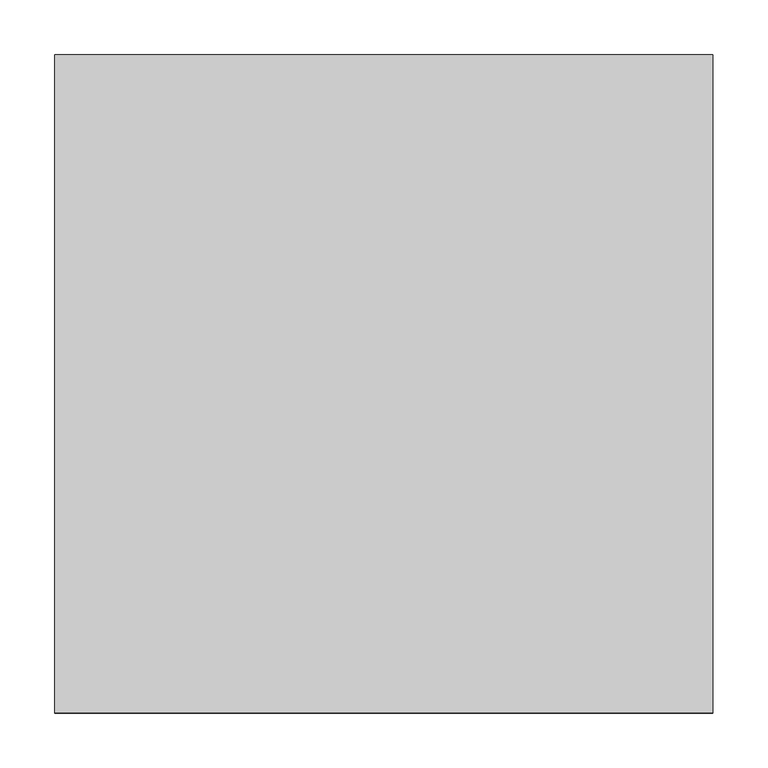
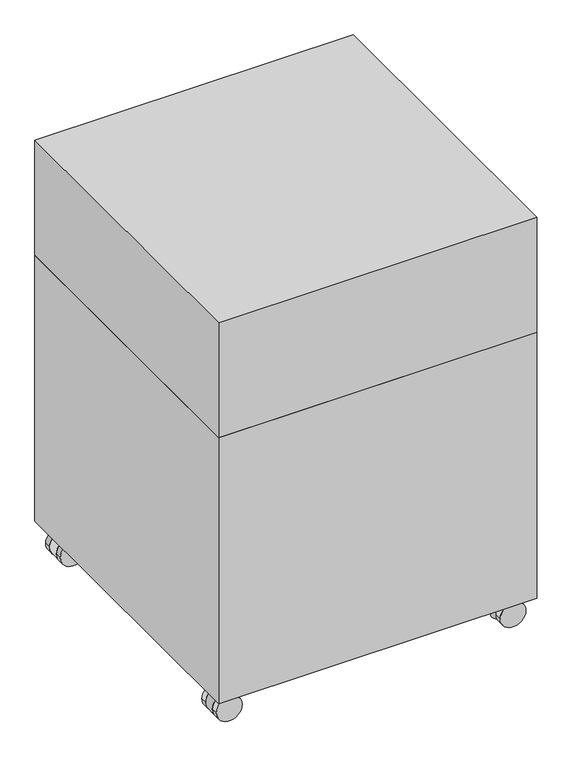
"""IFC4 building model written with IfcOpenShell, lengths in millimetres: furniture geometry, BK Library - Flipover - Large : BK Library - Flipover - Large."""

from ifc_helpers import new_model, si_unit, point, frame, frame_2d, origin, place, context, project, spatial, circle_curve, trimmed, segment, composite_curve, outline, extrude, faceted_brep, source, transform, mapped, element, save
from ifc_brep_helpers import plane_surface, cylinder_surface, advanced_brep


def furniture_d199673e(model_context):
    return source(origin(), model_context, "Body", "SolidModel", [
        faceted_brep([(300.0, 300.0, 818.1958313), (-300.0, 300.0, 818.1958313), (-300.0, -300.0, 818.1958313), (300.0, -300.0, 818.1958313), (300.0, 300.0, 589.1958313), (300.0, -300.0, 589.1958313), (-300.0, -300.0, 589.1958313), (-300.0, 300.0, 589.1958313), (-9.5, 281.0, 589.1958313), (-279.0, 281.0, 589.1958313), (-279.0, 9.5, 589.1958313), (-9.5, 9.5, 589.1958313), (-279.0, -9.5, 589.1958313), (-279.0, -281.0, 589.1958313), (-9.5, -281.0, 589.1958313), (-9.5, -9.5, 589.1958313), (279.0, -281.0, 589.1958313), (279.0, -9.5, 589.1958313), (9.5, -9.5, 589.1958313), (9.5, -281.0, 589.1958313), (279.0, 281.0, 589.1958313), (9.5, 281.0, 589.1958313), (9.5, 9.5, 589.1958313), (279.0, 9.5, 589.1958313), (300.0, 300.0, 794.1958313), (-300.0, 300.0, 794.1958313), (-300.0, -300.0, 794.1958313), (300.0, -300.0, 794.1958313), (-9.5, 9.5, 794.1958313), (-9.5, 281.0, 794.1958313), (-279.0, 9.5, 794.1958313), (-279.0, 281.0, 794.1958313), (-9.5, -9.5, 794.1958313), (-279.0, -9.5, 794.1958313), (-9.5, -281.0, 794.1958313), (-279.0, -281.0, 794.1958313), (9.5, -281.0, 794.1958313), (279.0, -281.0, 794.1958313), (9.5, -9.5, 794.1958313), (279.0, -9.5, 794.1958313), (279.0, 9.5, 794.1958313), (279.0, 281.0, 794.1958313), (9.5, 9.5, 794.1958313), (9.5, 281.0, 794.1958313)], [[[0, 1, 2, 3]], [[4, 5, 6, 7], [8, 9, 10, 11], [12, 13, 14, 15], [16, 17, 18, 19], [20, 21, 22, 23]], [[1, 0, 24, 4, 7, 25]], [[2, 1, 25, 7, 6, 26]], [[3, 2, 26, 6, 5, 27]], [[0, 3, 27, 5, 4, 24]], [[8, 11, 28, 29]], [[11, 10, 30, 28]], [[10, 9, 31, 30]], [[9, 8, 29, 31]], [[12, 15, 32, 33]], [[15, 14, 34, 32]], [[14, 13, 35, 34]], [[13, 12, 33, 35]], [[16, 19, 36, 37]], [[19, 18, 38, 36]], [[18, 17, 39, 38]], [[17, 16, 37, 39]], [[20, 23, 40, 41]], [[23, 22, 42, 40]], [[22, 21, 43, 42]], [[21, 20, 41, 43]], [[29, 28, 30, 31]], [[33, 32, 34, 35]], [[37, 36, 38, 39]], [[41, 40, 42, 43]]]),
        extrude(outline(composite_curve([segment(trimmed(circle_curve(frame_2d((253.0070749, 254.962002)), 7.4539879), [point((245.5530869, 254.962002))], [point((260.4610628, 254.962002))], False, "CARTESIAN"), True, "CONTINUOUS"), segment(trimmed(circle_curve(frame_2d((253.0070749, 254.962002)), 7.4539879), [point((260.4610628, 254.962002))], [point((245.5530869, 254.962002))], False, "CARTESIAN"), True, "CONTINUOUS")], self_intersect=False)), frame((0.0, 0.0, 49.6907092), z_axis=(0.0, 0.0, 1.0), x_axis=(1.0, 0.0, 0.0)), (0.0, 0.0, 1.0), 8.9875516),
        advanced_brep(
        [(-251.467628, 244.2, 49.6907092), (-251.467628, 265.8, 49.6907092), (-267.5030829, 265.8, 49.6907092), (-267.5030829, 244.2, 49.6907092), (-251.467628, 265.8, 14.7426051), (-251.467628, 244.2, 14.7426051), (-289.8859363, 244.2, 14.7426051), (-289.8859363, 265.8, 14.7426051), (-267.5030829, 244.2, 48.7252101), (-267.5030829, 265.8, 48.7252101)],
        [
            (0, 1, circle_curve(frame((-251.467628, 255.0, 49.6907092), z_axis=(0.0, 0.0, 1.0), x_axis=(-1.0, 0.0, 0.0)), 10.8)),
            (1, 2),
            (2, 3),
            (3, 0),
            (4, 5, circle_curve(frame((-251.467628, 255.0, 14.7426051), z_axis=(0.0, 0.0, -1.0), x_axis=(-1.0, 0.0, 0.0)), 10.8)),
            (5, 6),
            (6, 7),
            (7, 4),
            (5, 0),
            (3, 8),
            (8, 6, circle_curve(frame((-267.5030829, 244.2, 24.3626051), z_axis=(0.0, -1.0, 0.0), x_axis=(-1.0, 0.0, 0.0)), 24.3626051)),
            (4, 1),
            (7, 9, circle_curve(frame((-267.5030829, 265.8, 24.3626051), z_axis=(0.0, 1.0, 0.0), x_axis=(-1.0, 0.0, 0.0)), 24.3626051)),
            (9, 2),
            (8, 9),
        ],
        [
            plane_surface(frame((-243.1404779, 244.2, 49.6907092), z_axis=(0.0, 0.0, 1.0), x_axis=(1.0, 0.0, 0.0))),
            plane_surface(frame((-243.1404779, 244.2, 14.7426051), z_axis=(0.0, 0.0, -1.0), x_axis=(-1.0, 0.0, 0.0))),
            plane_surface(frame((-301.73294, 244.2, 49.6907092), z_axis=(0.0, -1.0, 0.0), x_axis=(0.0, 0.0, -1.0))),
            cylinder_surface(frame((-251.467628, 255.0, 14.7426051), z_axis=(0.0, 0.0, 1.0), x_axis=(-1.0, 0.0, 0.0)), 10.8),
            plane_surface(frame((-251.467628, 265.8, 49.6907092), z_axis=(0.0, 1.0, 0.0), x_axis=(0.0, 0.0, -1.0))),
            cylinder_surface(frame((-267.5030829, 226.7777105, 24.3626051), z_axis=(0.0, -1.0, 0.0), x_axis=(-1.0, 0.0, 0.0)), 24.3626051),
            plane_surface(frame((-267.5030829, 276.0, 49.6907092), z_axis=(-1.0, 0.0, 0.0), x_axis=(0.0, -1.0, 0.0))),
        ],
        [
            (0, [[1, 2, 3, 4]]),
            (1, [[5, 6, 7, 8]]),
            (2, [[9, -4, 10, 11, -6]]),
            (3, [[-1, -9, -5, 12]]),
            (4, [[-12, -8, 13, 14, -2]]),
            (5, [[15, -13, -7, -11]]),
            (6, [[-15, -10, -3, -14]]),
        ],
    ),
        advanced_brep(
        [(-243.1404779, 278.8, 24.3626051), (-291.865688, 278.8, 24.3626051), (-243.1404779, 265.8, 24.3626051), (-267.5030829, 265.8, 48.7252101), (-291.865688, 265.8, 24.3626051), (-289.8859363, 265.8, 14.7426051), (-291.865688, 276.0, 24.3626051)],
        [
            (0, 1, circle_curve(frame((-267.5030829, 278.8, 24.3626051), z_axis=(0.0, 1.0, 0.0), x_axis=(-1.0, 0.0, 0.0)), 24.3626051)),
            (1, 0, circle_curve(frame((-267.5030829, 278.8, 24.3626051), z_axis=(0.0, 1.0, 0.0), x_axis=(-1.0, 0.0, 0.0)), 24.3626051)),
            (2, 3, circle_curve(frame((-267.5030829, 265.8, 24.3626051), z_axis=(0.0, -1.0, 0.0), x_axis=(-1.0, 0.0, 0.0)), 24.3626051)),
            (3, 4, circle_curve(frame((-267.5030829, 265.8, 24.3626051), z_axis=(0.0, -1.0, 0.0), x_axis=(-1.0, 0.0, 0.0)), 24.3626051)),
            (4, 5, circle_curve(frame((-267.5030829, 265.8, 24.3626051), z_axis=(0.0, -1.0, 0.0), x_axis=(-1.0, 0.0, 0.0)), 24.3626051)),
            (5, 2, circle_curve(frame((-267.5030829, 265.8, 24.3626051), z_axis=(0.0, -1.0, 0.0), x_axis=(-1.0, 0.0, 0.0)), 24.3626051)),
            (0, 2),
            (4, 6),
            (6, 1),
        ],
        [
            plane_surface(frame((-291.865688, 278.8, 24.3626051), z_axis=(0.0, 1.0, 0.0), x_axis=(0.0, 0.0, 1.0))),
            plane_surface(frame((-291.865688, 265.8, 24.3626051), z_axis=(0.0, -1.0, 0.0), x_axis=(0.0, 0.0, -1.0))),
            cylinder_surface(frame((-267.5030829, 265.8, 24.3626051), z_axis=(0.0, 1.0, 0.0), x_axis=(-1.0, 0.0, 0.0)), 24.3626051),
        ],
        [
            (0, [[1, 2]]),
            (1, [[3, 4, 5, 6]]),
            (2, [[-1, 7, -6, -5, 8, 9]]),
            (2, [[-2, -9, -8, -4, -3, -7]]),
        ],
    ),
        advanced_brep(
        [(-243.1404779, 244.2, 24.3626051), (-289.8859363, 244.2, 14.7426051), (-291.865688, 244.2, 24.3626051), (-267.5030829, 244.2, 48.7252101), (-243.1404779, 231.2, 24.3626051), (-267.5030829, 231.2, 48.7252101), (-291.865688, 231.2, 24.3626051), (-289.8859363, 231.2, 14.7426051)],
        [
            (0, 1, circle_curve(frame((-267.5030829, 244.2, 24.3626051), z_axis=(0.0, 1.0, 0.0), x_axis=(-1.0, 0.0, 0.0)), 24.3626051)),
            (1, 2, circle_curve(frame((-267.5030829, 244.2, 24.3626051), z_axis=(0.0, 1.0, 0.0), x_axis=(-1.0, 0.0, 0.0)), 24.3626051)),
            (2, 3, circle_curve(frame((-267.5030829, 244.2, 24.3626051), z_axis=(0.0, 1.0, 0.0), x_axis=(-1.0, 0.0, 0.0)), 24.3626051)),
            (3, 0, circle_curve(frame((-267.5030829, 244.2, 24.3626051), z_axis=(0.0, 1.0, 0.0), x_axis=(-1.0, 0.0, 0.0)), 24.3626051)),
            (4, 5, circle_curve(frame((-267.5030829, 231.2, 24.3626051), z_axis=(0.0, -1.0, 0.0), x_axis=(-1.0, 0.0, 0.0)), 24.3626051)),
            (5, 6, circle_curve(frame((-267.5030829, 231.2, 24.3626051), z_axis=(0.0, -1.0, 0.0), x_axis=(-1.0, 0.0, 0.0)), 24.3626051)),
            (6, 7, circle_curve(frame((-267.5030829, 231.2, 24.3626051), z_axis=(0.0, -1.0, 0.0), x_axis=(-1.0, 0.0, 0.0)), 24.3626051)),
            (7, 4, circle_curve(frame((-267.5030829, 231.2, 24.3626051), z_axis=(0.0, -1.0, 0.0), x_axis=(-1.0, 0.0, 0.0)), 24.3626051)),
            (0, 4),
            (6, 2),
        ],
        [
            plane_surface(frame((-291.865688, 244.2, 24.3626051), z_axis=(0.0, 1.0, 0.0), x_axis=(0.0, 0.0, 1.0))),
            plane_surface(frame((-291.865688, 231.2, 24.3626051), z_axis=(0.0, -1.0, 0.0), x_axis=(0.0, 0.0, -1.0))),
            cylinder_surface(frame((-267.5030829, 231.2, 24.3626051), z_axis=(0.0, 1.0, 0.0), x_axis=(-1.0, 0.0, 0.0)), 24.3626051),
        ],
        [
            (0, [[1, 2, 3, 4]]),
            (1, [[5, 6, 7, 8]]),
            (2, [[9, -8, -7, 10, -2, -1]]),
            (2, [[-9, -4, -3, -10, -6, -5]]),
        ],
    ),
        advanced_brep(
        [(251.467628, 265.8, 49.6907092), (251.467628, 244.2, 49.6907092), (267.5030829, 244.2, 49.6907092), (267.5030829, 265.8, 49.6907092), (251.467628, 244.2, 14.7426051), (251.467628, 265.8, 14.7426051), (289.8859363, 265.8, 14.7426051), (289.8859363, 244.2, 14.7426051), (267.5030829, 244.2, 48.7252101), (267.5030829, 265.8, 48.7252101)],
        [
            (0, 1, circle_curve(frame((251.467628, 255.0, 49.6907092), z_axis=(0.0, 0.0, 1.0), x_axis=(1.0, 0.0, 0.0)), 10.8)),
            (1, 2),
            (2, 3),
            (3, 0),
            (4, 5, circle_curve(frame((251.467628, 255.0, 14.7426051), z_axis=(0.0, 0.0, -1.0), x_axis=(1.0, 0.0, 0.0)), 10.8)),
            (5, 6),
            (6, 7),
            (7, 4),
            (1, 4),
            (7, 8, circle_curve(frame((267.5030829, 244.2, 24.3626051), z_axis=(0.0, -1.0, 0.0), x_axis=(1.0, 0.0, 0.0)), 24.3626051)),
            (8, 2),
            (0, 5),
            (3, 9),
            (9, 6, circle_curve(frame((267.5030829, 265.8, 24.3626051), z_axis=(0.0, 1.0, 0.0), x_axis=(1.0, 0.0, 0.0)), 24.3626051)),
            (9, 8),
        ],
        [
            plane_surface(frame((301.73294, 244.2, 49.6907092), z_axis=(0.0, 0.0, 1.0), x_axis=(0.0, 1.0, 0.0))),
            plane_surface(frame((301.73294, 244.2, 14.7426051), z_axis=(0.0, 0.0, -1.0), x_axis=(0.0, -1.0, 0.0))),
            plane_surface(frame((251.467628, 244.2, 49.6907092), z_axis=(0.0, -1.0, 0.0), x_axis=(0.0, 0.0, -1.0))),
            cylinder_surface(frame((251.467628, 255.0, 14.7426051), z_axis=(0.0, 0.0, 1.0), x_axis=(1.0, 0.0, 0.0)), 10.8),
            plane_surface(frame((301.73294, 265.8, 49.6907092), z_axis=(0.0, 1.0, 0.0), x_axis=(0.0, 0.0, -1.0))),
            cylinder_surface(frame((267.5030829, 226.7777105, 24.3626051), z_axis=(0.0, -1.0, 0.0), x_axis=(1.0, 0.0, 0.0)), 24.3626051),
            plane_surface(frame((267.5030829, 276.0, 48.7252101), z_axis=(1.0, 0.0, 0.0), x_axis=(0.0, -1.0, 0.0))),
        ],
        [
            (0, [[1, 2, 3, 4]]),
            (1, [[5, 6, 7, 8]]),
            (2, [[9, -8, 10, 11, -2]]),
            (3, [[-1, 12, -5, -9]]),
            (4, [[-12, -4, 13, 14, -6]]),
            (5, [[15, -10, -7, -14]]),
            (6, [[-15, -13, -3, -11]]),
        ],
    ),
        advanced_brep(
        [(243.1404779, 278.8, 24.3626051), (291.865688, 278.8, 24.3626051), (243.1404779, 265.8, 24.3626051), (289.8859363, 265.8, 14.7426051), (291.865688, 265.8, 24.3626051), (267.5030829, 265.8, 48.7252101), (291.865688, 276.0, 24.3626051)],
        [
            (0, 1, circle_curve(frame((267.5030829, 278.8, 24.3626051), z_axis=(0.0, 1.0, 0.0), x_axis=(1.0, 0.0, 0.0)), 24.3626051)),
            (1, 0, circle_curve(frame((267.5030829, 278.8, 24.3626051), z_axis=(0.0, 1.0, 0.0), x_axis=(1.0, 0.0, 0.0)), 24.3626051)),
            (2, 3, circle_curve(frame((267.5030829, 265.8, 24.3626051), z_axis=(0.0, -1.0, 0.0), x_axis=(1.0, 0.0, 0.0)), 24.3626051)),
            (3, 4, circle_curve(frame((267.5030829, 265.8, 24.3626051), z_axis=(0.0, -1.0, 0.0), x_axis=(1.0, 0.0, 0.0)), 24.3626051)),
            (4, 5, circle_curve(frame((267.5030829, 265.8, 24.3626051), z_axis=(0.0, -1.0, 0.0), x_axis=(1.0, 0.0, 0.0)), 24.3626051)),
            (5, 2, circle_curve(frame((267.5030829, 265.8, 24.3626051), z_axis=(0.0, -1.0, 0.0), x_axis=(1.0, 0.0, 0.0)), 24.3626051)),
            (1, 6),
            (6, 4),
            (2, 0),
        ],
        [
            plane_surface(frame((291.865688, 278.8, 24.3626051), z_axis=(0.0, 1.0, 0.0), x_axis=(0.0, 0.0, -1.0))),
            plane_surface(frame((291.865688, 265.8, 24.3626051), z_axis=(0.0, -1.0, 0.0), x_axis=(0.0, 0.0, 1.0))),
            cylinder_surface(frame((267.5030829, 265.8, 24.3626051), z_axis=(0.0, 1.0, 0.0), x_axis=(1.0, 0.0, 0.0)), 24.3626051),
        ],
        [
            (0, [[1, 2]]),
            (1, [[3, 4, 5, 6]]),
            (2, [[-2, 7, 8, -4, -3, 9]]),
            (2, [[-1, -9, -6, -5, -8, -7]]),
        ],
    ),
        advanced_brep(
        [(243.1404779, 244.2, 24.3626051), (267.5030829, 244.2, 48.7252101), (291.865688, 244.2, 24.3626051), (289.8859363, 244.2, 14.7426051), (243.1404779, 231.2, 24.3626051), (289.8859363, 231.2, 14.7426051), (291.865688, 231.2, 24.3626051), (267.5030829, 231.2, 48.7252101)],
        [
            (0, 1, circle_curve(frame((267.5030829, 244.2, 24.3626051), z_axis=(0.0, 1.0, 0.0), x_axis=(1.0, 0.0, 0.0)), 24.3626051)),
            (1, 2, circle_curve(frame((267.5030829, 244.2, 24.3626051), z_axis=(0.0, 1.0, 0.0), x_axis=(1.0, 0.0, 0.0)), 24.3626051)),
            (2, 3, circle_curve(frame((267.5030829, 244.2, 24.3626051), z_axis=(0.0, 1.0, 0.0), x_axis=(1.0, 0.0, 0.0)), 24.3626051)),
            (3, 0, circle_curve(frame((267.5030829, 244.2, 24.3626051), z_axis=(0.0, 1.0, 0.0), x_axis=(1.0, 0.0, 0.0)), 24.3626051)),
            (4, 5, circle_curve(frame((267.5030829, 231.2, 24.3626051), z_axis=(0.0, -1.0, 0.0), x_axis=(1.0, 0.0, 0.0)), 24.3626051)),
            (5, 6, circle_curve(frame((267.5030829, 231.2, 24.3626051), z_axis=(0.0, -1.0, 0.0), x_axis=(1.0, 0.0, 0.0)), 24.3626051)),
            (6, 7, circle_curve(frame((267.5030829, 231.2, 24.3626051), z_axis=(0.0, -1.0, 0.0), x_axis=(1.0, 0.0, 0.0)), 24.3626051)),
            (7, 4, circle_curve(frame((267.5030829, 231.2, 24.3626051), z_axis=(0.0, -1.0, 0.0), x_axis=(1.0, 0.0, 0.0)), 24.3626051)),
            (2, 6),
            (4, 0),
        ],
        [
            plane_surface(frame((291.865688, 244.2, 24.3626051), z_axis=(0.0, 1.0, 0.0), x_axis=(0.0, 0.0, -1.0))),
            plane_surface(frame((291.865688, 231.2, 24.3626051), z_axis=(0.0, -1.0, 0.0), x_axis=(0.0, 0.0, 1.0))),
            cylinder_surface(frame((267.5030829, 231.2, 24.3626051), z_axis=(0.0, 1.0, 0.0), x_axis=(1.0, 0.0, 0.0)), 24.3626051),
        ],
        [
            (0, [[1, 2, 3, 4]]),
            (1, [[5, 6, 7, 8]]),
            (2, [[9, -6, -5, 10, -4, -3]]),
            (2, [[-9, -2, -1, -10, -8, -7]]),
        ],
    ),
        extrude(outline(composite_curve([segment(trimmed(circle_curve(frame_2d((-253.0070749, 254.962002)), 7.4539879), [point((-245.5530869, 254.962002))], [point((-260.4610628, 254.962002))], False, "CARTESIAN"), True, "CONTINUOUS"), segment(trimmed(circle_curve(frame_2d((-253.0070749, 254.962002)), 7.4539879), [point((-260.4610628, 254.962002))], [point((-245.5530869, 254.962002))], False, "CARTESIAN"), True, "CONTINUOUS")], self_intersect=False)), frame((0.0, 0.0, 49.6907092), z_axis=(0.0, 0.0, 1.0), x_axis=(1.0, 0.0, 0.0)), (0.0, 0.0, 1.0), 8.9875516),
        advanced_brep(
        [(-251.467628, -265.8, 49.6907092), (-251.467628, -244.2, 49.6907092), (-267.5030829, -244.2, 49.6907092), (-267.5030829, -265.8, 49.6907092), (-251.467628, -244.2, 14.7426051), (-251.467628, -265.8, 14.7426051), (-289.8859363, -265.8, 14.7426051), (-289.8859363, -244.2, 14.7426051), (-267.5030829, -244.2, 48.7252101), (-267.5030829, -265.8, 48.7252101)],
        [
            (0, 1, circle_curve(frame((-251.467628, -255.0, 49.6907092), z_axis=(0.0, 0.0, 1.0), x_axis=(-1.0, 0.0, 0.0)), 10.8)),
            (1, 2),
            (2, 3),
            (3, 0),
            (4, 5, circle_curve(frame((-251.467628, -255.0, 14.7426051), z_axis=(0.0, 0.0, -1.0), x_axis=(-1.0, 0.0, 0.0)), 10.8)),
            (5, 6),
            (6, 7),
            (7, 4),
            (1, 4),
            (7, 8, circle_curve(frame((-267.5030829, -244.2, 24.3626051), z_axis=(0.0, 1.0, 0.0), x_axis=(-1.0, 0.0, 0.0)), 24.3626051)),
            (8, 2),
            (0, 5),
            (3, 9),
            (9, 6, circle_curve(frame((-267.5030829, -265.8, 24.3626051), z_axis=(0.0, -1.0, 0.0), x_axis=(-1.0, 0.0, 0.0)), 24.3626051)),
            (9, 8),
        ],
        [
            plane_surface(frame((-301.73294, -244.2, 49.6907092), z_axis=(0.0, 0.0, 1.0), x_axis=(0.0, -1.0, 0.0))),
            plane_surface(frame((-301.73294, -244.2, 14.7426051), z_axis=(0.0, 0.0, -1.0), x_axis=(0.0, 1.0, 0.0))),
            plane_surface(frame((-251.467628, -244.2, 49.6907092), z_axis=(0.0, 1.0, 0.0), x_axis=(0.0, 0.0, -1.0))),
            cylinder_surface(frame((-251.467628, -255.0, 14.7426051), z_axis=(0.0, 0.0, 1.0), x_axis=(-1.0, 0.0, 0.0)), 10.8),
            plane_surface(frame((-301.73294, -265.8, 49.6907092), z_axis=(0.0, -1.0, 0.0), x_axis=(0.0, 0.0, -1.0))),
            cylinder_surface(frame((-267.5030829, -226.7777105, 24.3626051), z_axis=(0.0, 1.0, 0.0), x_axis=(-1.0, 0.0, 0.0)), 24.3626051),
            plane_surface(frame((-267.5030829, -276.0, 48.7252101), z_axis=(-1.0, 0.0, 0.0), x_axis=(0.0, 1.0, 0.0))),
        ],
        [
            (0, [[1, 2, 3, 4]]),
            (1, [[5, 6, 7, 8]]),
            (2, [[9, -8, 10, 11, -2]]),
            (3, [[-1, 12, -5, -9]]),
            (4, [[-12, -4, 13, 14, -6]]),
            (5, [[15, -10, -7, -14]]),
            (6, [[-15, -13, -3, -11]]),
        ],
    ),
        advanced_brep(
        [(-243.1404779, -278.8, 24.3626051), (-291.865688, -278.8, 24.3626051), (-243.1404779, -265.8, 24.3626051), (-289.8859363, -265.8, 14.7426051), (-291.865688, -265.8, 24.3626051), (-267.5030829, -265.8, 48.7252101), (-291.865688, -276.0, 24.3626051)],
        [
            (0, 1, circle_curve(frame((-267.5030829, -278.8, 24.3626051), z_axis=(0.0, -1.0, 0.0), x_axis=(-1.0, 0.0, 0.0)), 24.3626051)),
            (1, 0, circle_curve(frame((-267.5030829, -278.8, 24.3626051), z_axis=(0.0, -1.0, 0.0), x_axis=(-1.0, 0.0, 0.0)), 24.3626051)),
            (2, 3, circle_curve(frame((-267.5030829, -265.8, 24.3626051), z_axis=(0.0, 1.0, 0.0), x_axis=(-1.0, 0.0, 0.0)), 24.3626051)),
            (3, 4, circle_curve(frame((-267.5030829, -265.8, 24.3626051), z_axis=(0.0, 1.0, 0.0), x_axis=(-1.0, 0.0, 0.0)), 24.3626051)),
            (4, 5, circle_curve(frame((-267.5030829, -265.8, 24.3626051), z_axis=(0.0, 1.0, 0.0), x_axis=(-1.0, 0.0, 0.0)), 24.3626051)),
            (5, 2, circle_curve(frame((-267.5030829, -265.8, 24.3626051), z_axis=(0.0, 1.0, 0.0), x_axis=(-1.0, 0.0, 0.0)), 24.3626051)),
            (1, 6),
            (6, 4),
            (2, 0),
        ],
        [
            plane_surface(frame((-291.865688, -278.8, 24.3626051), z_axis=(0.0, -1.0, 0.0), x_axis=(0.0, 0.0, -1.0))),
            plane_surface(frame((-291.865688, -265.8, 24.3626051), z_axis=(0.0, 1.0, 0.0), x_axis=(0.0, 0.0, 1.0))),
            cylinder_surface(frame((-267.5030829, -265.8, 24.3626051), z_axis=(0.0, -1.0, 0.0), x_axis=(-1.0, 0.0, 0.0)), 24.3626051),
        ],
        [
            (0, [[1, 2]]),
            (1, [[3, 4, 5, 6]]),
            (2, [[-2, 7, 8, -4, -3, 9]]),
            (2, [[-1, -9, -6, -5, -8, -7]]),
        ],
    ),
        advanced_brep(
        [(-243.1404779, -244.2, 24.3626051), (-267.5030829, -244.2, 48.7252101), (-291.865688, -244.2, 24.3626051), (-289.8859363, -244.2, 14.7426051), (-243.1404779, -231.2, 24.3626051), (-289.8859363, -231.2, 14.7426051), (-291.865688, -231.2, 24.3626051), (-267.5030829, -231.2, 48.7252101)],
        [
            (0, 1, circle_curve(frame((-267.5030829, -244.2, 24.3626051), z_axis=(0.0, -1.0, 0.0), x_axis=(-1.0, 0.0, 0.0)), 24.3626051)),
            (1, 2, circle_curve(frame((-267.5030829, -244.2, 24.3626051), z_axis=(0.0, -1.0, 0.0), x_axis=(-1.0, 0.0, 0.0)), 24.3626051)),
            (2, 3, circle_curve(frame((-267.5030829, -244.2, 24.3626051), z_axis=(0.0, -1.0, 0.0), x_axis=(-1.0, 0.0, 0.0)), 24.3626051)),
            (3, 0, circle_curve(frame((-267.5030829, -244.2, 24.3626051), z_axis=(0.0, -1.0, 0.0), x_axis=(-1.0, 0.0, 0.0)), 24.3626051)),
            (4, 5, circle_curve(frame((-267.5030829, -231.2, 24.3626051), z_axis=(0.0, 1.0, 0.0), x_axis=(-1.0, 0.0, 0.0)), 24.3626051)),
            (5, 6, circle_curve(frame((-267.5030829, -231.2, 24.3626051), z_axis=(0.0, 1.0, 0.0), x_axis=(-1.0, 0.0, 0.0)), 24.3626051)),
            (6, 7, circle_curve(frame((-267.5030829, -231.2, 24.3626051), z_axis=(0.0, 1.0, 0.0), x_axis=(-1.0, 0.0, 0.0)), 24.3626051)),
            (7, 4, circle_curve(frame((-267.5030829, -231.2, 24.3626051), z_axis=(0.0, 1.0, 0.0), x_axis=(-1.0, 0.0, 0.0)), 24.3626051)),
            (2, 6),
            (4, 0),
        ],
        [
            plane_surface(frame((-291.865688, -244.2, 24.3626051), z_axis=(0.0, -1.0, 0.0), x_axis=(0.0, 0.0, -1.0))),
            plane_surface(frame((-291.865688, -231.2, 24.3626051), z_axis=(0.0, 1.0, 0.0), x_axis=(0.0, 0.0, 1.0))),
            cylinder_surface(frame((-267.5030829, -231.2, 24.3626051), z_axis=(0.0, -1.0, 0.0), x_axis=(-1.0, 0.0, 0.0)), 24.3626051),
        ],
        [
            (0, [[1, 2, 3, 4]]),
            (1, [[5, 6, 7, 8]]),
            (2, [[9, -6, -5, 10, -4, -3]]),
            (2, [[-9, -2, -1, -10, -8, -7]]),
        ],
    ),
        extrude(outline(composite_curve([segment(trimmed(circle_curve(frame_2d((24.3626051, 267.5030829)), 24.3626051), [point((24.3626051, 243.1404779))], [point((24.3626051, 291.865688))], False, "CARTESIAN"), True, "CONTINUOUS"), segment(trimmed(circle_curve(frame_2d((24.3626051, 267.5030829)), 24.3626051), [point((24.3626051, 291.865688))], [point((24.3626051, 243.1404779))], False, "CARTESIAN"), True, "CONTINUOUS")], self_intersect=False)), frame((0.0, -278.8, 0.0), z_axis=(0.0, 1.0, 0.0), x_axis=(0.0, 0.0, 1.0)), (0.0, 0.0, 1.0), 13.0),
        extrude(outline(composite_curve([segment(trimmed(circle_curve(frame_2d((24.3626051, 267.5030829)), 24.3626051), [point((24.3626051, 243.1404779))], [point((24.3626051, 291.865688))], False, "CARTESIAN"), True, "CONTINUOUS"), segment(trimmed(circle_curve(frame_2d((24.3626051, 267.5030829)), 24.3626051), [point((24.3626051, 291.865688))], [point((24.3626051, 243.1404779))], False, "CARTESIAN"), True, "CONTINUOUS")], self_intersect=False)), frame((0.0, -244.2, 0.0), z_axis=(0.0, 1.0, 0.0), x_axis=(0.0, 0.0, 1.0)), (0.0, 0.0, 1.0), 13.0),
        extrude(outline(composite_curve([segment(trimmed(circle_curve(frame_2d((-253.0070749, -254.962002)), 7.4539879), [point((-245.5530869, -254.962002))], [point((-260.4610628, -254.962002))], False, "CARTESIAN"), True, "CONTINUOUS"), segment(trimmed(circle_curve(frame_2d((-253.0070749, -254.962002)), 7.4539879), [point((-260.4610628, -254.962002))], [point((-245.5530869, -254.962002))], False, "CARTESIAN"), True, "CONTINUOUS")], self_intersect=False)), frame((0.0, 0.0, 49.6907092), z_axis=(0.0, 0.0, 1.0), x_axis=(1.0, 0.0, 0.0)), (0.0, 0.0, 1.0), 8.9875516),
        extrude(outline(composite_curve([segment(trimmed(circle_curve(frame_2d((253.0070749, -254.962002)), 7.4539879), [point((245.5530869, -254.962002))], [point((260.4610628, -254.962002))], False, "CARTESIAN"), True, "CONTINUOUS"), segment(trimmed(circle_curve(frame_2d((253.0070749, -254.962002)), 7.4539879), [point((260.4610628, -254.962002))], [point((245.5530869, -254.962002))], False, "CARTESIAN"), True, "CONTINUOUS")], self_intersect=False)), frame((0.0, 0.0, 49.6907092), z_axis=(0.0, 0.0, 1.0), x_axis=(1.0, 0.0, 0.0)), (0.0, 0.0, 1.0), 8.9875516),
        advanced_brep(
        [(251.467628, -244.2, 49.6907092), (251.467628, -265.8, 49.6907092), (267.5030829, -265.8, 49.6907092), (267.5030829, -244.2, 49.6907092), (251.467628, -265.8, 14.7426051), (251.467628, -244.2, 14.7426051), (289.8859363, -244.2, 14.7426051), (289.8859363, -265.8, 14.7426051), (267.5030829, -244.2, 48.7252101), (267.5030829, -265.8, 48.7252101)],
        [
            (0, 1, circle_curve(frame((251.467628, -255.0, 49.6907092), z_axis=(0.0, 0.0, 1.0), x_axis=(1.0, 0.0, 0.0)), 10.8)),
            (1, 2),
            (2, 3),
            (3, 0),
            (4, 5, circle_curve(frame((251.467628, -255.0, 14.7426051), z_axis=(0.0, 0.0, -1.0), x_axis=(1.0, 0.0, 0.0)), 10.8)),
            (5, 6),
            (6, 7),
            (7, 4),
            (5, 0),
            (3, 8),
            (8, 6, circle_curve(frame((267.5030829, -244.2, 24.3626051), z_axis=(0.0, 1.0, 0.0), x_axis=(1.0, 0.0, 0.0)), 24.3626051)),
            (4, 1),
            (7, 9, circle_curve(frame((267.5030829, -265.8, 24.3626051), z_axis=(0.0, -1.0, 0.0), x_axis=(1.0, 0.0, 0.0)), 24.3626051)),
            (9, 2),
            (8, 9),
        ],
        [
            plane_surface(frame((243.1404779, -244.2, 49.6907092), z_axis=(0.0, 0.0, 1.0), x_axis=(-1.0, 0.0, 0.0))),
            plane_surface(frame((243.1404779, -244.2, 14.7426051), z_axis=(0.0, 0.0, -1.0), x_axis=(1.0, 0.0, 0.0))),
            plane_surface(frame((301.73294, -244.2, 49.6907092), z_axis=(0.0, 1.0, 0.0), x_axis=(0.0, 0.0, -1.0))),
            cylinder_surface(frame((251.467628, -255.0, 14.7426051), z_axis=(0.0, 0.0, 1.0), x_axis=(1.0, 0.0, 0.0)), 10.8),
            plane_surface(frame((251.467628, -265.8, 49.6907092), z_axis=(0.0, -1.0, 0.0), x_axis=(0.0, 0.0, -1.0))),
            cylinder_surface(frame((267.5030829, -226.7777105, 24.3626051), z_axis=(0.0, 1.0, 0.0), x_axis=(1.0, 0.0, 0.0)), 24.3626051),
            plane_surface(frame((267.5030829, -276.0, 49.6907092), z_axis=(1.0, 0.0, 0.0), x_axis=(0.0, 1.0, 0.0))),
        ],
        [
            (0, [[1, 2, 3, 4]]),
            (1, [[5, 6, 7, 8]]),
            (2, [[9, -4, 10, 11, -6]]),
            (3, [[-1, -9, -5, 12]]),
            (4, [[-12, -8, 13, 14, -2]]),
            (5, [[15, -13, -7, -11]]),
            (6, [[-15, -10, -3, -14]]),
        ],
    ),
        faceted_brep([(300.0, 300.0, 589.1958313), (-300.0, 300.0, 589.1958313), (-300.0, -300.0, 589.1958313), (300.0, -300.0, 589.1958313), (-279.0, -281.0, 589.1958313), (-279.0, 281.0, 589.1958313), (279.0, 281.0, 589.1958313), (279.0, -281.0, 589.1958313), (300.0, 300.0, 58.6782608), (300.0, -300.0, 58.6782608), (-300.0, -300.0, 58.6782608), (-300.0, 300.0, 58.6782608), (-279.0, -281.0, 79.6782608), (-279.0, 281.0, 79.6782608), (279.0, 281.0, 79.6782608), (279.0, -281.0, 79.6782608)], [[[0, 1, 2, 3], [4, 5, 6, 7]], [[8, 9, 10, 11]], [[1, 0, 8, 11]], [[2, 1, 11, 10]], [[3, 2, 10, 9]], [[0, 3, 9, 8]], [[5, 4, 12, 13]], [[6, 5, 13, 14]], [[7, 6, 14, 15]], [[4, 7, 15, 12]], [[13, 12, 15, 14]]]),
    ])


if __name__ == "__main__":
    model = new_model("IFC4")
    model_context = context("Model", 3, world=origin())
    ifc_project = project(units=[si_unit("LENGTHUNIT", "METRE", prefix="MILLI")], contexts=[model_context])
    site = spatial("IfcSite", under=ifc_project)
    building = spatial("IfcBuilding", under=site)
    placement = place(None, origin())
    furniture_shape = furniture_d199673e(model_context)
    element("IfcFurniture", 1, ObjectType="BK Library - Flipover - Large : BK Library - Flipover - Large", at=placement, inside=building, context=model_context, shape_type="MappedRepresentation", body=[
        mapped(furniture_shape, transform((0.0, 0.0, 0.0), x_axis=(1.0, 0.0, 0.0), y_axis=(0.0, 1.0, 0.0), z_axis=(0.0, 0.0, 1.0))),
    ])
    save(model, "model.ifc")
